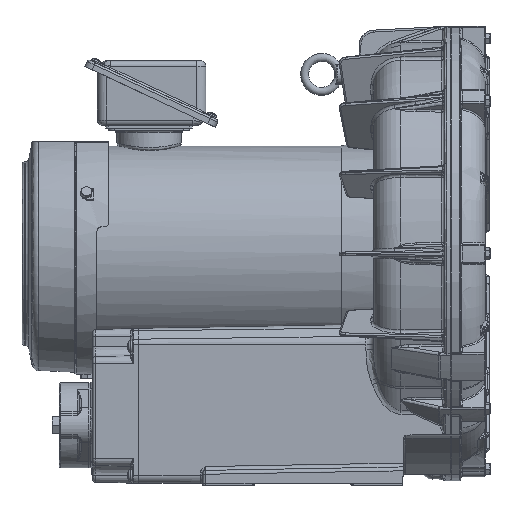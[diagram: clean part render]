
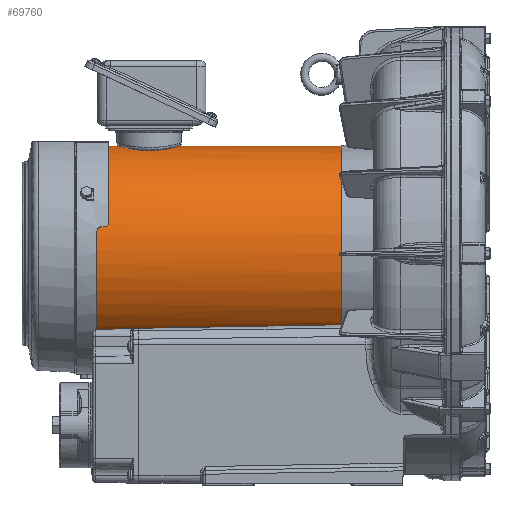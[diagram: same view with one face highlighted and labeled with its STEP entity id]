
A CAD part, left-side view. The second image highlights one B-rep face of the part: STEP entity #69760.
In plain terms, the highlighted cylindrical face has radius 83.3 mm (diameter 166.6 mm), a full revolution.
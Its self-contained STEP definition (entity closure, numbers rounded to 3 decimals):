
#3818=B_SPLINE_CURVE_WITH_KNOTS('',3,(#125453,#125454,#125455,#125456,#125457,
#125458,#125459,#125460,#125461,#125462,#125463,#125464,#125465,#125466,
#125467,#125468),.UNSPECIFIED.,.F.,.F.,(4,2,2,2,2,2,2,4),(-0.009,
0.,0.625,1.35,2.099,2.944,
3.526,3.652),.UNSPECIFIED.);
#3819=B_SPLINE_CURVE_WITH_KNOTS('',3,(#125470,#125471,#125472,#125473,#125474,
#125475,#125476,#125477,#125478,#125479,#125480,#125481,#125482,#125483,
#125484,#125485,#125486,#125487,#125488,#125489,#125490,#125491,#125492,
#125493,#125494,#125495),.UNSPECIFIED.,.F.,.F.,(4,2,2,2,2,2,2,2,2,2,2,2,
4),(-0.009,0.,0.825,1.675,2.559,
3.236,3.781,4.363,5.208,5.958,
6.683,7.307,7.316),.UNSPECIFIED.);
#3820=B_SPLINE_CURVE_WITH_KNOTS('',3,(#125496,#125497,#125498,#125499,#125500,
#125501,#125502,#125503,#125504,#125505,#125506,#125507,#125508,#125509),
 .UNSPECIFIED.,.F.,.F.,(4,2,2,2,2,2,4),(3.652,4.071,
4.748,5.632,6.481,7.307,7.315),
 .UNSPECIFIED.);
#16605=FACE_BOUND('',#22879,.T.);
#16606=FACE_BOUND('',#22880,.T.);
#18349=FACE_OUTER_BOUND('',#22878,.T.);
#22878=EDGE_LOOP('',(#54987));
#22879=EDGE_LOOP('',(#54988,#54989,#54990));
#22880=EDGE_LOOP('',(#54991));
#27114=CIRCLE('',#75349,83.3);
#27115=CIRCLE('',#75350,83.3);
#32506=VERTEX_POINT('',#125451);
#32507=VERTEX_POINT('',#125452);
#32508=VERTEX_POINT('',#125469);
#32532=VERTEX_POINT('',#125637);
#32533=VERTEX_POINT('',#125639);
#40261=EDGE_CURVE('',#32506,#32507,#3818,.T.);
#40262=EDGE_CURVE('',#32508,#32506,#3819,.T.);
#40263=EDGE_CURVE('',#32507,#32508,#3820,.T.);
#40296=EDGE_CURVE('',#32532,#32532,#27114,.T.);
#40297=EDGE_CURVE('',#32533,#32533,#27115,.T.);
#54987=ORIENTED_EDGE('',*,*,#40296,.F.);
#54988=ORIENTED_EDGE('',*,*,#40262,.T.);
#54989=ORIENTED_EDGE('',*,*,#40261,.T.);
#54990=ORIENTED_EDGE('',*,*,#40263,.T.);
#54991=ORIENTED_EDGE('',*,*,#40297,.F.);
#67465=CYLINDRICAL_SURFACE('',#75348,83.3);
#69760=ADVANCED_FACE('',(#18349,#16605,#16606),#67465,.T.);
#75348=AXIS2_PLACEMENT_3D('',#125636,#86528,#86529);
#75349=AXIS2_PLACEMENT_3D('',#125638,#86530,#86531);
#75350=AXIS2_PLACEMENT_3D('',#125640,#86532,#86533);
#86528=DIRECTION('center_axis',(0.,1.,0.));
#86529=DIRECTION('ref_axis',(0.,0.,
1.));
#86530=DIRECTION('center_axis',(0.,1.,0.));
#86531=DIRECTION('ref_axis',(1.,0.,0.));
#86532=DIRECTION('center_axis',(0.,-1.,0.));
#86533=DIRECTION('ref_axis',(0.,0.,
1.));
#125451=CARTESIAN_POINT('',(0.,212.2,83.3));
#125452=CARTESIAN_POINT('',(-23.383,234.6,79.951));
#125453=CARTESIAN_POINT('Ctrl Pts',(0.,212.2,83.3));
#125454=CARTESIAN_POINT('Ctrl Pts',(-0.029,212.198,
83.3));
#125455=CARTESIAN_POINT('Ctrl Pts',(-0.058,212.196,
83.3));
#125456=CARTESIAN_POINT('Ctrl Pts',(-2.164,212.042,
83.298));
#125457=CARTESIAN_POINT('Ctrl Pts',(-4.244,212.201,
83.217));
#125458=CARTESIAN_POINT('Ctrl Pts',(-8.618,213.194,
82.886));
#125459=CARTESIAN_POINT('Ctrl Pts',(-10.85,214.122,
82.616));
#125460=CARTESIAN_POINT('Ctrl Pts',(-14.979,216.704,
81.97));
#125461=CARTESIAN_POINT('Ctrl Pts',(-16.837,218.365,
81.596));
#125462=CARTESIAN_POINT('Ctrl Pts',(-20.131,222.471,
80.851));
#125463=CARTESIAN_POINT('Ctrl Pts',(-21.462,224.966,
80.492));
#125464=CARTESIAN_POINT('Ctrl Pts',(-22.894,229.49,
80.095));
#125465=CARTESIAN_POINT('Ctrl Pts',(-23.243,231.402,79.992));
#125466=CARTESIAN_POINT('Ctrl Pts',(-23.371,233.76,
79.954));
#125467=CARTESIAN_POINT('Ctrl Pts',(-23.383,234.18,79.951));
#125468=CARTESIAN_POINT('Ctrl Pts',(-23.383,234.6,79.951));
#125469=CARTESIAN_POINT('',(0.,257.,83.3));
#125470=CARTESIAN_POINT('Ctrl Pts',(0.,257.,83.3));
#125471=CARTESIAN_POINT('Ctrl Pts',(0.029,257.002,
83.3));
#125472=CARTESIAN_POINT('Ctrl Pts',(0.058,257.004,
83.3));
#125473=CARTESIAN_POINT('Ctrl Pts',(2.832,257.206,83.297));
#125474=CARTESIAN_POINT('Ctrl Pts',(5.572,256.865,83.155));
#125475=CARTESIAN_POINT('Ctrl Pts',(10.854,255.135,82.634));
#125476=CARTESIAN_POINT('Ctrl Pts',(13.322,253.738,82.256));
#125477=CARTESIAN_POINT('Ctrl Pts',(17.677,250.031,81.434));
#125478=CARTESIAN_POINT('Ctrl Pts',(19.505,247.716,80.996));
#125479=CARTESIAN_POINT('Ctrl Pts',(21.87,243.119,80.385));
#125480=CARTESIAN_POINT('Ctrl Pts',(22.599,240.978,80.177));
#125481=CARTESIAN_POINT('Ctrl Pts',(23.332,236.973,79.966));
#125482=CARTESIAN_POINT('Ctrl Pts',(23.448,235.154,79.932));
#125483=CARTESIAN_POINT('Ctrl Pts',(23.242,231.402,79.992));
#125484=CARTESIAN_POINT('Ctrl Pts',(22.893,229.489,80.095));
#125485=CARTESIAN_POINT('Ctrl Pts',(21.462,224.965,80.493));
#125486=CARTESIAN_POINT('Ctrl Pts',(20.13,222.471,80.851));
#125487=CARTESIAN_POINT('Ctrl Pts',(16.836,218.364,81.596));
#125488=CARTESIAN_POINT('Ctrl Pts',(14.978,216.704,81.97));
#125489=CARTESIAN_POINT('Ctrl Pts',(10.849,214.122,82.616));
#125490=CARTESIAN_POINT('Ctrl Pts',(8.618,213.193,82.887));
#125491=CARTESIAN_POINT('Ctrl Pts',(4.244,212.201,83.217));
#125492=CARTESIAN_POINT('Ctrl Pts',(2.164,212.042,83.298));
#125493=CARTESIAN_POINT('Ctrl Pts',(0.058,212.196,
83.3));
#125494=CARTESIAN_POINT('Ctrl Pts',(0.029,212.198,
83.3));
#125495=CARTESIAN_POINT('Ctrl Pts',(0.,212.2,83.3));
#125496=CARTESIAN_POINT('Ctrl Pts',(-23.383,234.6,79.951));
#125497=CARTESIAN_POINT('Ctrl Pts',(-23.383,235.995,79.951));
#125498=CARTESIAN_POINT('Ctrl Pts',(-23.257,237.387,
79.988));
#125499=CARTESIAN_POINT('Ctrl Pts',(-22.599,240.979,
80.177));
#125500=CARTESIAN_POINT('Ctrl Pts',(-21.87,243.119,
80.385));
#125501=CARTESIAN_POINT('Ctrl Pts',(-19.505,247.716,
80.996));
#125502=CARTESIAN_POINT('Ctrl Pts',(-17.677,250.031,
81.434));
#125503=CARTESIAN_POINT('Ctrl Pts',(-13.322,253.738,
82.256));
#125504=CARTESIAN_POINT('Ctrl Pts',(-10.854,255.135,
82.634));
#125505=CARTESIAN_POINT('Ctrl Pts',(-5.572,256.865,83.155));
#125506=CARTESIAN_POINT('Ctrl Pts',(-2.832,257.206,
83.297));
#125507=CARTESIAN_POINT('Ctrl Pts',(-0.058,257.004,
83.3));
#125508=CARTESIAN_POINT('Ctrl Pts',(-0.029,257.002,
83.3));
#125509=CARTESIAN_POINT('Ctrl Pts',(0.,257.,
83.3));
#125636=CARTESIAN_POINT('Origin',(0.,180.6,0.));
#125637=CARTESIAN_POINT('',(0.,275.6,83.3));
#125638=CARTESIAN_POINT('Origin',(0.,275.6,0.));
#125639=CARTESIAN_POINT('',(0.,85.6,83.3));
#125640=CARTESIAN_POINT('Origin',(0.,85.6,0.));
